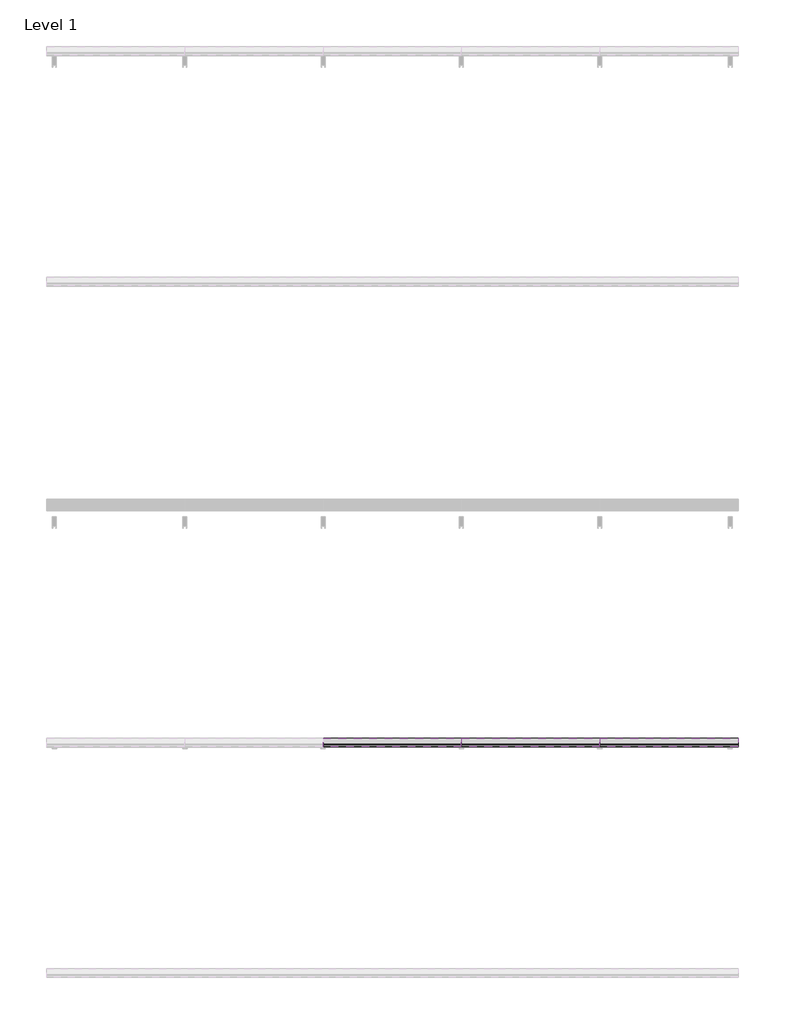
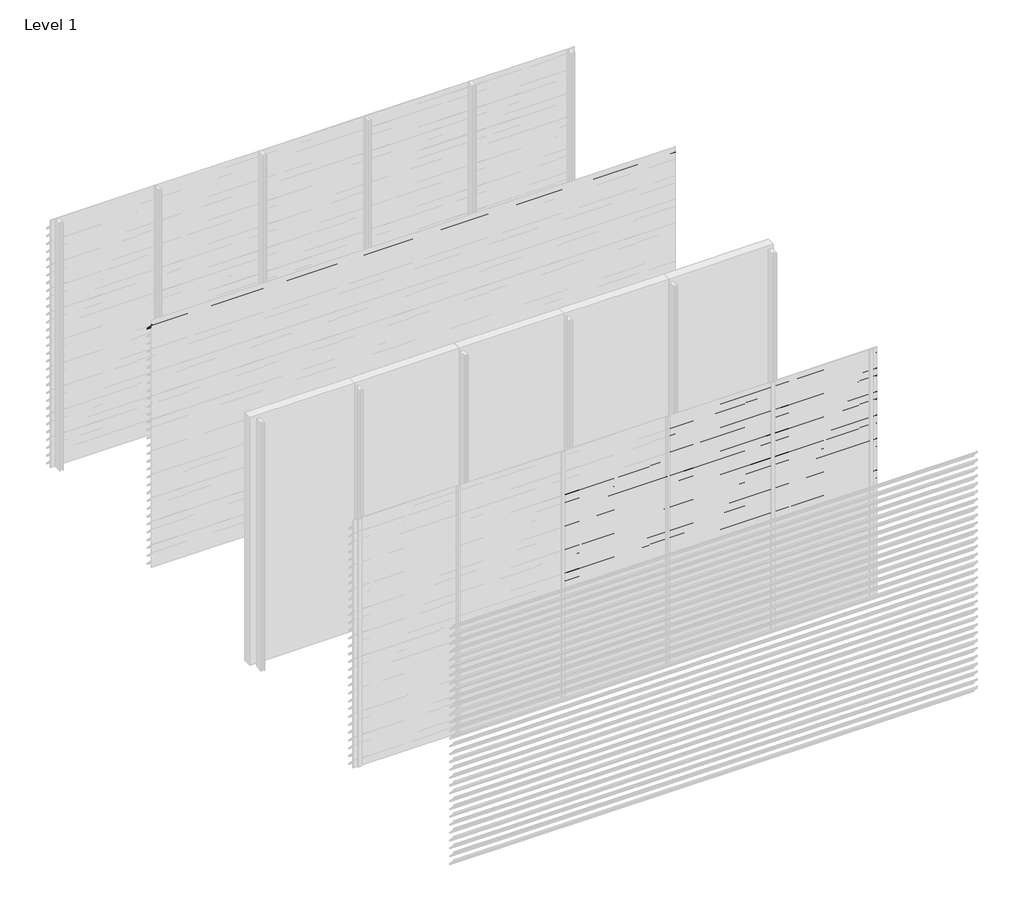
# One storey, part 15 of 24: 89 proxies.
"""IFC4 building model written with IfcOpenShell, lengths in millimetres."""

from ifc_helpers import new_model, si_unit, frame, origin, place, context, project, spatial, polyline, outline, extrude, element, save

model = new_model("IFC4")

# Units and contexts
model_context = context("Model", 3, world=origin())
ifc_project = project(units=[si_unit("LENGTHUNIT", "METRE", prefix="MILLI")], contexts=[model_context])

# Site, building, storey
site = spatial("IfcSite", under=ifc_project)
building = spatial("IfcBuilding", under=site)
storey = spatial("IfcBuildingStorey", under=building, Name="Level 1", Elevation=0.0)

# Proxies
placement = place(None, origin())
element("IfcBuildingElementProxy", 1, Name="Wall Sweeps", at=placement, inside=storey, context=model_context, shape_type="SweptSolid", body=[
    extrude(outline(polyline([(-19920.8, 2842.9), (-19922.3, 2842.9), (-19922.3, 2855.1762333), (-19998.0, 2930.4561238), (-19998.0, 2945.0), (-19996.5, 2945.0), (-19996.5, 2931.0798905), (-19920.8, 2855.8), (-19920.8, 2842.9)])), frame((0.0, 0.0, 0.0), z_axis=(1.0, 0.0, 0.0), x_axis=(0.0, 1.0, 0.0)), (0.0, 0.0, 1.0), 6000.0),
])
element("IfcBuildingElementProxy", 2, Name="Wall Sweeps", at=placement, inside=storey, context=model_context, shape_type="SweptSolid", body=[
    extrude(outline(polyline([(-23920.8, 2367.9), (-23922.3, 2367.9), (-23922.3, 2380.1762333), (-23998.0, 2455.4561238), (-23998.0, 2470.0), (-23996.5, 2470.0), (-23996.5, 2456.0798905), (-23920.8, 2380.8), (-23920.8, 2367.9)])), frame((2400.0, 0.0, 0.0), z_axis=(1.0, 0.0, 0.0), x_axis=(0.0, 1.0, 0.0)), (0.0, 0.0, 1.0), 1200.0),
])
element("IfcBuildingElementProxy", 3, Name="Wall Sweeps", at=placement, inside=storey, context=model_context, shape_type="SweptSolid", body=[
    extrude(outline(polyline([(-23920.8, 2272.9), (-23922.3, 2272.9), (-23922.3, 2285.1762333), (-23998.0, 2360.4561238), (-23998.0, 2375.0), (-23996.5, 2375.0), (-23996.5, 2361.0798905), (-23920.8, 2285.8), (-23920.8, 2272.9)])), frame((2400.0, 0.0, 0.0), z_axis=(1.0, 0.0, 0.0), x_axis=(0.0, 1.0, 0.0)), (0.0, 0.0, 1.0), 1200.0),
])
element("IfcBuildingElementProxy", 4, Name="Wall Sweeps", at=placement, inside=storey, context=model_context, shape_type="SweptSolid", body=[
    extrude(outline(polyline([(-23920.8, 2177.9), (-23922.3, 2177.9), (-23922.3, 2190.1762333), (-23998.0, 2265.4561238), (-23998.0, 2280.0), (-23996.5, 2280.0), (-23996.5, 2266.0798905), (-23920.8, 2190.8), (-23920.8, 2177.9)])), frame((2400.0, 0.0, 0.0), z_axis=(1.0, 0.0, 0.0), x_axis=(0.0, 1.0, 0.0)), (0.0, 0.0, 1.0), 1200.0),
])
element("IfcBuildingElementProxy", 5, Name="Wall Sweeps", at=placement, inside=storey, context=model_context, shape_type="SweptSolid", body=[
    extrude(outline(polyline([(-23920.8, 2082.9), (-23922.3, 2082.9), (-23922.3, 2095.1762333), (-23998.0, 2170.4561238), (-23998.0, 2185.0), (-23996.5, 2185.0), (-23996.5, 2171.0798905), (-23920.8, 2095.8), (-23920.8, 2082.9)])), frame((2400.0, 0.0, 0.0), z_axis=(1.0, 0.0, 0.0), x_axis=(0.0, 1.0, 0.0)), (0.0, 0.0, 1.0), 1200.0),
])
element("IfcBuildingElementProxy", 6, Name="Wall Sweeps", at=placement, inside=storey, context=model_context, shape_type="SweptSolid", body=[
    extrude(outline(polyline([(-23920.8, 1987.9), (-23922.3, 1987.9), (-23922.3, 2000.1762333), (-23998.0, 2075.4561238), (-23998.0, 2090.0), (-23996.5, 2090.0), (-23996.5, 2076.0798905), (-23920.8, 2000.8), (-23920.8, 1987.9)])), frame((2400.0, 0.0, 0.0), z_axis=(1.0, 0.0, 0.0), x_axis=(0.0, 1.0, 0.0)), (0.0, 0.0, 1.0), 1200.0),
])
element("IfcBuildingElementProxy", 7, Name="Wall Sweeps", at=placement, inside=storey, context=model_context, shape_type="SweptSolid", body=[
    extrude(outline(polyline([(-23920.8, 1892.9), (-23922.3, 1892.9), (-23922.3, 1905.1762333), (-23998.0, 1980.4561238), (-23998.0, 1995.0), (-23996.5, 1995.0), (-23996.5, 1981.0798905), (-23920.8, 1905.8), (-23920.8, 1892.9)])), frame((2400.0, 0.0, 0.0), z_axis=(1.0, 0.0, 0.0), x_axis=(0.0, 1.0, 0.0)), (0.0, 0.0, 1.0), 1200.0),
])
element("IfcBuildingElementProxy", 8, Name="Wall Sweeps", at=placement, inside=storey, context=model_context, shape_type="SweptSolid", body=[
    extrude(outline(polyline([(-23920.8, 1797.9), (-23922.3, 1797.9), (-23922.3, 1810.1762333), (-23998.0, 1885.4561238), (-23998.0, 1900.0), (-23996.5, 1900.0), (-23996.5, 1886.0798905), (-23920.8, 1810.8), (-23920.8, 1797.9)])), frame((2400.0, 0.0, 0.0), z_axis=(1.0, 0.0, 0.0), x_axis=(0.0, 1.0, 0.0)), (0.0, 0.0, 1.0), 1200.0),
])
element("IfcBuildingElementProxy", 9, Name="Wall Sweeps", at=placement, inside=storey, context=model_context, shape_type="SweptSolid", body=[
    extrude(outline(polyline([(-23920.8, 1702.9), (-23922.3, 1702.9), (-23922.3, 1715.1762333), (-23998.0, 1790.4561238), (-23998.0, 1805.0), (-23996.5, 1805.0), (-23996.5, 1791.0798905), (-23920.8, 1715.8), (-23920.8, 1702.9)])), frame((2400.0, 0.0, 0.0), z_axis=(1.0, 0.0, 0.0), x_axis=(0.0, 1.0, 0.0)), (0.0, 0.0, 1.0), 1200.0),
])
element("IfcBuildingElementProxy", 10, Name="Wall Sweeps", at=placement, inside=storey, context=model_context, shape_type="SweptSolid", body=[
    extrude(outline(polyline([(-23920.8, 1607.9), (-23922.3, 1607.9), (-23922.3, 1620.1762333), (-23998.0, 1695.4561238), (-23998.0, 1710.0), (-23996.5, 1710.0), (-23996.5, 1696.0798905), (-23920.8, 1620.8), (-23920.8, 1607.9)])), frame((2400.0, 0.0, 0.0), z_axis=(1.0, 0.0, 0.0), x_axis=(0.0, 1.0, 0.0)), (0.0, 0.0, 1.0), 1200.0),
])
element("IfcBuildingElementProxy", 11, Name="Wall Sweeps", at=placement, inside=storey, context=model_context, shape_type="SweptSolid", body=[
    extrude(outline(polyline([(-23920.8, 1512.9), (-23922.3, 1512.9), (-23922.3, 1525.1762333), (-23998.0, 1600.4561238), (-23998.0, 1615.0), (-23996.5, 1615.0), (-23996.5, 1601.0798905), (-23920.8, 1525.8), (-23920.8, 1512.9)])), frame((2400.0, 0.0, 0.0), z_axis=(1.0, 0.0, 0.0), x_axis=(0.0, 1.0, 0.0)), (0.0, 0.0, 1.0), 1200.0),
])
element("IfcBuildingElementProxy", 12, Name="Wall Sweeps", at=placement, inside=storey, context=model_context, shape_type="SweptSolid", body=[
    extrude(outline(polyline([(-23920.8, 1417.9), (-23922.3, 1417.9), (-23922.3, 1430.1762333), (-23998.0, 1505.4561238), (-23998.0, 1520.0), (-23996.5, 1520.0), (-23996.5, 1506.0798905), (-23920.8, 1430.8), (-23920.8, 1417.9)])), frame((2400.0, 0.0, 0.0), z_axis=(1.0, 0.0, 0.0), x_axis=(0.0, 1.0, 0.0)), (0.0, 0.0, 1.0), 1200.0),
])
element("IfcBuildingElementProxy", 13, Name="Wall Sweeps", at=placement, inside=storey, context=model_context, shape_type="SweptSolid", body=[
    extrude(outline(polyline([(-23920.8, 1322.9), (-23922.3, 1322.9), (-23922.3, 1335.1762333), (-23998.0, 1410.4561238), (-23998.0, 1425.0), (-23996.5, 1425.0), (-23996.5, 1411.0798905), (-23920.8, 1335.8), (-23920.8, 1322.9)])), frame((2400.0, 0.0, 0.0), z_axis=(1.0, 0.0, 0.0), x_axis=(0.0, 1.0, 0.0)), (0.0, 0.0, 1.0), 1200.0),
])
element("IfcBuildingElementProxy", 14, Name="Wall Sweeps", at=placement, inside=storey, context=model_context, shape_type="SweptSolid", body=[
    extrude(outline(polyline([(-23920.8, 1227.9), (-23922.3, 1227.9), (-23922.3, 1240.1762333), (-23998.0, 1315.4561238), (-23998.0, 1330.0), (-23996.5, 1330.0), (-23996.5, 1316.0798905), (-23920.8, 1240.8), (-23920.8, 1227.9)])), frame((2400.0, 0.0, 0.0), z_axis=(1.0, 0.0, 0.0), x_axis=(0.0, 1.0, 0.0)), (0.0, 0.0, 1.0), 1200.0),
])
element("IfcBuildingElementProxy", 15, Name="Wall Sweeps", at=placement, inside=storey, context=model_context, shape_type="SweptSolid", body=[
    extrude(outline(polyline([(-23920.8, 1132.9), (-23922.3, 1132.9), (-23922.3, 1145.1762333), (-23998.0, 1220.4561238), (-23998.0, 1235.0), (-23996.5, 1235.0), (-23996.5, 1221.0798905), (-23920.8, 1145.8), (-23920.8, 1132.9)])), frame((2400.0, 0.0, 0.0), z_axis=(1.0, 0.0, 0.0), x_axis=(0.0, 1.0, 0.0)), (0.0, 0.0, 1.0), 1200.0),
])
element("IfcBuildingElementProxy", 16, Name="Wall Sweeps", at=placement, inside=storey, context=model_context, shape_type="SweptSolid", body=[
    extrude(outline(polyline([(-23920.8, 1037.9), (-23922.3, 1037.9), (-23922.3, 1050.1762333), (-23998.0, 1125.4561238), (-23998.0, 1140.0), (-23996.5, 1140.0), (-23996.5, 1126.0798905), (-23920.8, 1050.8), (-23920.8, 1037.9)])), frame((2400.0, 0.0, 0.0), z_axis=(1.0, 0.0, 0.0), x_axis=(0.0, 1.0, 0.0)), (0.0, 0.0, 1.0), 1200.0),
])
element("IfcBuildingElementProxy", 17, Name="Wall Sweeps", at=placement, inside=storey, context=model_context, shape_type="SweptSolid", body=[
    extrude(outline(polyline([(-23920.8, 942.9), (-23922.3, 942.9), (-23922.3, 955.1762333), (-23998.0, 1030.4561238), (-23998.0, 1045.0), (-23996.5, 1045.0), (-23996.5, 1031.0798905), (-23920.8, 955.8), (-23920.8, 942.9)])), frame((2400.0, 0.0, 0.0), z_axis=(1.0, 0.0, 0.0), x_axis=(0.0, 1.0, 0.0)), (0.0, 0.0, 1.0), 1200.0),
])
element("IfcBuildingElementProxy", 18, Name="Wall Sweeps", at=placement, inside=storey, context=model_context, shape_type="SweptSolid", body=[
    extrude(outline(polyline([(-23920.8, 847.9), (-23922.3, 847.9), (-23922.3, 860.1762333), (-23998.0, 935.4561238), (-23998.0, 950.0), (-23996.5, 950.0), (-23996.5, 936.0798905), (-23920.8, 860.8), (-23920.8, 847.9)])), frame((2400.0, 0.0, 0.0), z_axis=(1.0, 0.0, 0.0), x_axis=(0.0, 1.0, 0.0)), (0.0, 0.0, 1.0), 1200.0),
])
element("IfcBuildingElementProxy", 19, Name="Wall Sweeps", at=placement, inside=storey, context=model_context, shape_type="SweptSolid", body=[
    extrude(outline(polyline([(-23920.8, 752.9), (-23922.3, 752.9), (-23922.3, 765.1762333), (-23998.0, 840.4561238), (-23998.0, 855.0), (-23996.5, 855.0), (-23996.5, 841.0798905), (-23920.8, 765.8), (-23920.8, 752.9)])), frame((2400.0, 0.0, 0.0), z_axis=(1.0, 0.0, 0.0), x_axis=(0.0, 1.0, 0.0)), (0.0, 0.0, 1.0), 1200.0),
])
element("IfcBuildingElementProxy", 20, Name="Wall Sweeps", at=placement, inside=storey, context=model_context, shape_type="SweptSolid", body=[
    extrude(outline(polyline([(-23920.8, 657.9), (-23922.3, 657.9), (-23922.3, 670.1762333), (-23998.0, 745.4561238), (-23998.0, 760.0), (-23996.5, 760.0), (-23996.5, 746.0798905), (-23920.8, 670.8), (-23920.8, 657.9)])), frame((2400.0, 0.0, 0.0), z_axis=(1.0, 0.0, 0.0), x_axis=(0.0, 1.0, 0.0)), (0.0, 0.0, 1.0), 1200.0),
])
element("IfcBuildingElementProxy", 21, Name="Wall Sweeps", at=placement, inside=storey, context=model_context, shape_type="SweptSolid", body=[
    extrude(outline(polyline([(-23920.8, 562.9), (-23922.3, 562.9), (-23922.3, 575.1762333), (-23998.0, 650.4561238), (-23998.0, 665.0), (-23996.5, 665.0), (-23996.5, 651.0798905), (-23920.8, 575.8), (-23920.8, 562.9)])), frame((2400.0, 0.0, 0.0), z_axis=(1.0, 0.0, 0.0), x_axis=(0.0, 1.0, 0.0)), (0.0, 0.0, 1.0), 1200.0),
])
element("IfcBuildingElementProxy", 22, Name="Wall Sweeps", at=placement, inside=storey, context=model_context, shape_type="SweptSolid", body=[
    extrude(outline(polyline([(-23920.8, 467.9), (-23922.3, 467.9), (-23922.3, 480.1762333), (-23998.0, 555.4561238), (-23998.0, 570.0), (-23996.5, 570.0), (-23996.5, 556.0798905), (-23920.8, 480.8), (-23920.8, 467.9)])), frame((2400.0, 0.0, 0.0), z_axis=(1.0, 0.0, 0.0), x_axis=(0.0, 1.0, 0.0)), (0.0, 0.0, 1.0), 1200.0),
])
element("IfcBuildingElementProxy", 23, Name="Wall Sweeps", at=placement, inside=storey, context=model_context, shape_type="SweptSolid", body=[
    extrude(outline(polyline([(-23920.8, 372.9), (-23922.3, 372.9), (-23922.3, 385.1762333), (-23998.0, 460.4561238), (-23998.0, 475.0), (-23996.5, 475.0), (-23996.5, 461.0798905), (-23920.8, 385.8), (-23920.8, 372.9)])), frame((2400.0, 0.0, 0.0), z_axis=(1.0, 0.0, 0.0), x_axis=(0.0, 1.0, 0.0)), (0.0, 0.0, 1.0), 1200.0),
])
element("IfcBuildingElementProxy", 24, Name="Wall Sweeps", at=placement, inside=storey, context=model_context, shape_type="SweptSolid", body=[
    extrude(outline(polyline([(-23920.8, 277.9), (-23922.3, 277.9), (-23922.3, 290.1762333), (-23998.0, 365.4561238), (-23998.0, 380.0), (-23996.5, 380.0), (-23996.5, 366.0798905), (-23920.8, 290.8), (-23920.8, 277.9)])), frame((2400.0, 0.0, 0.0), z_axis=(1.0, 0.0, 0.0), x_axis=(0.0, 1.0, 0.0)), (0.0, 0.0, 1.0), 1200.0),
])
element("IfcBuildingElementProxy", 25, Name="Wall Sweeps", at=placement, inside=storey, context=model_context, shape_type="SweptSolid", body=[
    extrude(outline(polyline([(-23920.8, 182.9), (-23922.3, 182.9), (-23922.3, 195.1762333), (-23998.0, 270.4561238), (-23998.0, 285.0), (-23996.5, 285.0), (-23996.5, 271.0798905), (-23920.8, 195.8), (-23920.8, 182.9)])), frame((2400.0, 0.0, 0.0), z_axis=(1.0, 0.0, 0.0), x_axis=(0.0, 1.0, 0.0)), (0.0, 0.0, 1.0), 1200.0),
])
element("IfcBuildingElementProxy", 26, Name="Wall Sweeps", at=placement, inside=storey, context=model_context, shape_type="SweptSolid", body=[
    extrude(outline(polyline([(-23920.8, 87.9), (-23922.3, 87.9), (-23922.3, 100.1762333), (-23998.0, 175.4561238), (-23998.0, 190.0), (-23996.5, 190.0), (-23996.5, 176.0798905), (-23920.8, 100.8), (-23920.8, 87.9)])), frame((2400.0, 0.0, 0.0), z_axis=(1.0, 0.0, 0.0), x_axis=(0.0, 1.0, 0.0)), (0.0, 0.0, 1.0), 1200.0),
])
element("IfcBuildingElementProxy", 27, Name="Wall Sweeps", at=placement, inside=storey, context=model_context, shape_type="SweptSolid", body=[
    extrude(outline(polyline([(-23920.8, -7.1), (-23922.3, -7.1), (-23922.3, 5.1762333), (-23998.0, 80.4561238), (-23998.0, 95.0), (-23996.5, 95.0), (-23996.5, 81.0798905), (-23920.8, 5.8), (-23920.8, -7.1)])), frame((2400.0, 0.0, 0.0), z_axis=(1.0, 0.0, 0.0), x_axis=(0.0, 1.0, 0.0)), (0.0, 0.0, 1.0), 1200.0),
])
element("IfcBuildingElementProxy", 28, Name="Wall Sweeps", at=placement, inside=storey, context=model_context, shape_type="SweptSolid", body=[
    extrude(outline(polyline([(-23920.8, 2842.9), (-23922.3, 2842.9), (-23922.3, 2855.1762333), (-23998.0, 2930.4561238), (-23998.0, 2945.0), (-23996.5, 2945.0), (-23996.5, 2931.0798905), (-23920.8, 2855.8), (-23920.8, 2842.9)])), frame((3600.0, 0.0, 0.0), z_axis=(1.0, 0.0, 0.0), x_axis=(0.0, 1.0, 0.0)), (0.0, 0.0, 1.0), 1200.0),
])
element("IfcBuildingElementProxy", 29, Name="Wall Sweeps", at=placement, inside=storey, context=model_context, shape_type="SweptSolid", body=[
    extrude(outline(polyline([(-23920.8, 2747.9), (-23922.3, 2747.9), (-23922.3, 2760.1762333), (-23998.0, 2835.4561238), (-23998.0, 2850.0), (-23996.5, 2850.0), (-23996.5, 2836.0798905), (-23920.8, 2760.8), (-23920.8, 2747.9)])), frame((3600.0, 0.0, 0.0), z_axis=(1.0, 0.0, 0.0), x_axis=(0.0, 1.0, 0.0)), (0.0, 0.0, 1.0), 1200.0),
])
element("IfcBuildingElementProxy", 30, Name="Wall Sweeps", at=placement, inside=storey, context=model_context, shape_type="SweptSolid", body=[
    extrude(outline(polyline([(-23920.8, 2652.9), (-23922.3, 2652.9), (-23922.3, 2665.1762333), (-23998.0, 2740.4561238), (-23998.0, 2755.0), (-23996.5, 2755.0), (-23996.5, 2741.0798905), (-23920.8, 2665.8), (-23920.8, 2652.9)])), frame((3600.0, 0.0, 0.0), z_axis=(1.0, 0.0, 0.0), x_axis=(0.0, 1.0, 0.0)), (0.0, 0.0, 1.0), 1200.0),
])
element("IfcBuildingElementProxy", 31, Name="Wall Sweeps", at=placement, inside=storey, context=model_context, shape_type="SweptSolid", body=[
    extrude(outline(polyline([(-23920.8, 2557.9), (-23922.3, 2557.9), (-23922.3, 2570.1762333), (-23998.0, 2645.4561238), (-23998.0, 2660.0), (-23996.5, 2660.0), (-23996.5, 2646.0798905), (-23920.8, 2570.8), (-23920.8, 2557.9)])), frame((3600.0, 0.0, 0.0), z_axis=(1.0, 0.0, 0.0), x_axis=(0.0, 1.0, 0.0)), (0.0, 0.0, 1.0), 1200.0),
])
element("IfcBuildingElementProxy", 32, Name="Wall Sweeps", at=placement, inside=storey, context=model_context, shape_type="SweptSolid", body=[
    extrude(outline(polyline([(-23920.8, 2462.9), (-23922.3, 2462.9), (-23922.3, 2475.1762333), (-23998.0, 2550.4561238), (-23998.0, 2565.0), (-23996.5, 2565.0), (-23996.5, 2551.0798905), (-23920.8, 2475.8), (-23920.8, 2462.9)])), frame((3600.0, 0.0, 0.0), z_axis=(1.0, 0.0, 0.0), x_axis=(0.0, 1.0, 0.0)), (0.0, 0.0, 1.0), 1200.0),
])
element("IfcBuildingElementProxy", 33, Name="Wall Sweeps", at=placement, inside=storey, context=model_context, shape_type="SweptSolid", body=[
    extrude(outline(polyline([(-23920.8, 2367.9), (-23922.3, 2367.9), (-23922.3, 2380.1762333), (-23998.0, 2455.4561238), (-23998.0, 2470.0), (-23996.5, 2470.0), (-23996.5, 2456.0798905), (-23920.8, 2380.8), (-23920.8, 2367.9)])), frame((3600.0, 0.0, 0.0), z_axis=(1.0, 0.0, 0.0), x_axis=(0.0, 1.0, 0.0)), (0.0, 0.0, 1.0), 1200.0),
])
element("IfcBuildingElementProxy", 34, Name="Wall Sweeps", at=placement, inside=storey, context=model_context, shape_type="SweptSolid", body=[
    extrude(outline(polyline([(-23920.8, 2272.9), (-23922.3, 2272.9), (-23922.3, 2285.1762333), (-23998.0, 2360.4561238), (-23998.0, 2375.0), (-23996.5, 2375.0), (-23996.5, 2361.0798905), (-23920.8, 2285.8), (-23920.8, 2272.9)])), frame((3600.0, 0.0, 0.0), z_axis=(1.0, 0.0, 0.0), x_axis=(0.0, 1.0, 0.0)), (0.0, 0.0, 1.0), 1200.0),
])
element("IfcBuildingElementProxy", 35, Name="Wall Sweeps", at=placement, inside=storey, context=model_context, shape_type="SweptSolid", body=[
    extrude(outline(polyline([(-23920.8, 2177.9), (-23922.3, 2177.9), (-23922.3, 2190.1762333), (-23998.0, 2265.4561238), (-23998.0, 2280.0), (-23996.5, 2280.0), (-23996.5, 2266.0798905), (-23920.8, 2190.8), (-23920.8, 2177.9)])), frame((3600.0, 0.0, 0.0), z_axis=(1.0, 0.0, 0.0), x_axis=(0.0, 1.0, 0.0)), (0.0, 0.0, 1.0), 1200.0),
])
element("IfcBuildingElementProxy", 36, Name="Wall Sweeps", at=placement, inside=storey, context=model_context, shape_type="SweptSolid", body=[
    extrude(outline(polyline([(-23920.8, 2082.9), (-23922.3, 2082.9), (-23922.3, 2095.1762333), (-23998.0, 2170.4561238), (-23998.0, 2185.0), (-23996.5, 2185.0), (-23996.5, 2171.0798905), (-23920.8, 2095.8), (-23920.8, 2082.9)])), frame((3600.0, 0.0, 0.0), z_axis=(1.0, 0.0, 0.0), x_axis=(0.0, 1.0, 0.0)), (0.0, 0.0, 1.0), 1200.0),
])
element("IfcBuildingElementProxy", 37, Name="Wall Sweeps", at=placement, inside=storey, context=model_context, shape_type="SweptSolid", body=[
    extrude(outline(polyline([(-23920.8, 1987.9), (-23922.3, 1987.9), (-23922.3, 2000.1762333), (-23998.0, 2075.4561238), (-23998.0, 2090.0), (-23996.5, 2090.0), (-23996.5, 2076.0798905), (-23920.8, 2000.8), (-23920.8, 1987.9)])), frame((3600.0, 0.0, 0.0), z_axis=(1.0, 0.0, 0.0), x_axis=(0.0, 1.0, 0.0)), (0.0, 0.0, 1.0), 1200.0),
])
element("IfcBuildingElementProxy", 38, Name="Wall Sweeps", at=placement, inside=storey, context=model_context, shape_type="SweptSolid", body=[
    extrude(outline(polyline([(-23920.8, 1892.9), (-23922.3, 1892.9), (-23922.3, 1905.1762333), (-23998.0, 1980.4561238), (-23998.0, 1995.0), (-23996.5, 1995.0), (-23996.5, 1981.0798905), (-23920.8, 1905.8), (-23920.8, 1892.9)])), frame((3600.0, 0.0, 0.0), z_axis=(1.0, 0.0, 0.0), x_axis=(0.0, 1.0, 0.0)), (0.0, 0.0, 1.0), 1200.0),
])
element("IfcBuildingElementProxy", 39, Name="Wall Sweeps", at=placement, inside=storey, context=model_context, shape_type="SweptSolid", body=[
    extrude(outline(polyline([(-23920.8, 1797.9), (-23922.3, 1797.9), (-23922.3, 1810.1762333), (-23998.0, 1885.4561238), (-23998.0, 1900.0), (-23996.5, 1900.0), (-23996.5, 1886.0798905), (-23920.8, 1810.8), (-23920.8, 1797.9)])), frame((3600.0, 0.0, 0.0), z_axis=(1.0, 0.0, 0.0), x_axis=(0.0, 1.0, 0.0)), (0.0, 0.0, 1.0), 1200.0),
])
element("IfcBuildingElementProxy", 40, Name="Wall Sweeps", at=placement, inside=storey, context=model_context, shape_type="SweptSolid", body=[
    extrude(outline(polyline([(-23920.8, 1702.9), (-23922.3, 1702.9), (-23922.3, 1715.1762333), (-23998.0, 1790.4561238), (-23998.0, 1805.0), (-23996.5, 1805.0), (-23996.5, 1791.0798905), (-23920.8, 1715.8), (-23920.8, 1702.9)])), frame((3600.0, 0.0, 0.0), z_axis=(1.0, 0.0, 0.0), x_axis=(0.0, 1.0, 0.0)), (0.0, 0.0, 1.0), 1200.0),
])
element("IfcBuildingElementProxy", 41, Name="Wall Sweeps", at=placement, inside=storey, context=model_context, shape_type="SweptSolid", body=[
    extrude(outline(polyline([(-23920.8, 1607.9), (-23922.3, 1607.9), (-23922.3, 1620.1762333), (-23998.0, 1695.4561238), (-23998.0, 1710.0), (-23996.5, 1710.0), (-23996.5, 1696.0798905), (-23920.8, 1620.8), (-23920.8, 1607.9)])), frame((3600.0, 0.0, 0.0), z_axis=(1.0, 0.0, 0.0), x_axis=(0.0, 1.0, 0.0)), (0.0, 0.0, 1.0), 1200.0),
])
element("IfcBuildingElementProxy", 42, Name="Wall Sweeps", at=placement, inside=storey, context=model_context, shape_type="SweptSolid", body=[
    extrude(outline(polyline([(-23920.8, 1512.9), (-23922.3, 1512.9), (-23922.3, 1525.1762333), (-23998.0, 1600.4561238), (-23998.0, 1615.0), (-23996.5, 1615.0), (-23996.5, 1601.0798905), (-23920.8, 1525.8), (-23920.8, 1512.9)])), frame((3600.0, 0.0, 0.0), z_axis=(1.0, 0.0, 0.0), x_axis=(0.0, 1.0, 0.0)), (0.0, 0.0, 1.0), 1200.0),
])
element("IfcBuildingElementProxy", 43, Name="Wall Sweeps", at=placement, inside=storey, context=model_context, shape_type="SweptSolid", body=[
    extrude(outline(polyline([(-23920.8, 1417.9), (-23922.3, 1417.9), (-23922.3, 1430.1762333), (-23998.0, 1505.4561238), (-23998.0, 1520.0), (-23996.5, 1520.0), (-23996.5, 1506.0798905), (-23920.8, 1430.8), (-23920.8, 1417.9)])), frame((3600.0, 0.0, 0.0), z_axis=(1.0, 0.0, 0.0), x_axis=(0.0, 1.0, 0.0)), (0.0, 0.0, 1.0), 1200.0),
])
element("IfcBuildingElementProxy", 44, Name="Wall Sweeps", at=placement, inside=storey, context=model_context, shape_type="SweptSolid", body=[
    extrude(outline(polyline([(-23920.8, 1322.9), (-23922.3, 1322.9), (-23922.3, 1335.1762333), (-23998.0, 1410.4561238), (-23998.0, 1425.0), (-23996.5, 1425.0), (-23996.5, 1411.0798905), (-23920.8, 1335.8), (-23920.8, 1322.9)])), frame((3600.0, 0.0, 0.0), z_axis=(1.0, 0.0, 0.0), x_axis=(0.0, 1.0, 0.0)), (0.0, 0.0, 1.0), 1200.0),
])
element("IfcBuildingElementProxy", 45, Name="Wall Sweeps", at=placement, inside=storey, context=model_context, shape_type="SweptSolid", body=[
    extrude(outline(polyline([(-23920.8, 1227.9), (-23922.3, 1227.9), (-23922.3, 1240.1762333), (-23998.0, 1315.4561238), (-23998.0, 1330.0), (-23996.5, 1330.0), (-23996.5, 1316.0798905), (-23920.8, 1240.8), (-23920.8, 1227.9)])), frame((3600.0, 0.0, 0.0), z_axis=(1.0, 0.0, 0.0), x_axis=(0.0, 1.0, 0.0)), (0.0, 0.0, 1.0), 1200.0),
])
element("IfcBuildingElementProxy", 46, Name="Wall Sweeps", at=placement, inside=storey, context=model_context, shape_type="SweptSolid", body=[
    extrude(outline(polyline([(-23920.8, 1132.9), (-23922.3, 1132.9), (-23922.3, 1145.1762333), (-23998.0, 1220.4561238), (-23998.0, 1235.0), (-23996.5, 1235.0), (-23996.5, 1221.0798905), (-23920.8, 1145.8), (-23920.8, 1132.9)])), frame((3600.0, 0.0, 0.0), z_axis=(1.0, 0.0, 0.0), x_axis=(0.0, 1.0, 0.0)), (0.0, 0.0, 1.0), 1200.0),
])
element("IfcBuildingElementProxy", 47, Name="Wall Sweeps", at=placement, inside=storey, context=model_context, shape_type="SweptSolid", body=[
    extrude(outline(polyline([(-23920.8, 1037.9), (-23922.3, 1037.9), (-23922.3, 1050.1762333), (-23998.0, 1125.4561238), (-23998.0, 1140.0), (-23996.5, 1140.0), (-23996.5, 1126.0798905), (-23920.8, 1050.8), (-23920.8, 1037.9)])), frame((3600.0, 0.0, 0.0), z_axis=(1.0, 0.0, 0.0), x_axis=(0.0, 1.0, 0.0)), (0.0, 0.0, 1.0), 1200.0),
])
element("IfcBuildingElementProxy", 48, Name="Wall Sweeps", at=placement, inside=storey, context=model_context, shape_type="SweptSolid", body=[
    extrude(outline(polyline([(-23920.8, 942.9), (-23922.3, 942.9), (-23922.3, 955.1762333), (-23998.0, 1030.4561238), (-23998.0, 1045.0), (-23996.5, 1045.0), (-23996.5, 1031.0798905), (-23920.8, 955.8), (-23920.8, 942.9)])), frame((3600.0, 0.0, 0.0), z_axis=(1.0, 0.0, 0.0), x_axis=(0.0, 1.0, 0.0)), (0.0, 0.0, 1.0), 1200.0),
])
element("IfcBuildingElementProxy", 49, Name="Wall Sweeps", at=placement, inside=storey, context=model_context, shape_type="SweptSolid", body=[
    extrude(outline(polyline([(-23920.8, 847.9), (-23922.3, 847.9), (-23922.3, 860.1762333), (-23998.0, 935.4561238), (-23998.0, 950.0), (-23996.5, 950.0), (-23996.5, 936.0798905), (-23920.8, 860.8), (-23920.8, 847.9)])), frame((3600.0, 0.0, 0.0), z_axis=(1.0, 0.0, 0.0), x_axis=(0.0, 1.0, 0.0)), (0.0, 0.0, 1.0), 1200.0),
])
element("IfcBuildingElementProxy", 50, Name="Wall Sweeps", at=placement, inside=storey, context=model_context, shape_type="SweptSolid", body=[
    extrude(outline(polyline([(-23920.8, 752.9), (-23922.3, 752.9), (-23922.3, 765.1762333), (-23998.0, 840.4561238), (-23998.0, 855.0), (-23996.5, 855.0), (-23996.5, 841.0798905), (-23920.8, 765.8), (-23920.8, 752.9)])), frame((3600.0, 0.0, 0.0), z_axis=(1.0, 0.0, 0.0), x_axis=(0.0, 1.0, 0.0)), (0.0, 0.0, 1.0), 1200.0),
])
element("IfcBuildingElementProxy", 51, Name="Wall Sweeps", at=placement, inside=storey, context=model_context, shape_type="SweptSolid", body=[
    extrude(outline(polyline([(-23920.8, 657.9), (-23922.3, 657.9), (-23922.3, 670.1762333), (-23998.0, 745.4561238), (-23998.0, 760.0), (-23996.5, 760.0), (-23996.5, 746.0798905), (-23920.8, 670.8), (-23920.8, 657.9)])), frame((3600.0, 0.0, 0.0), z_axis=(1.0, 0.0, 0.0), x_axis=(0.0, 1.0, 0.0)), (0.0, 0.0, 1.0), 1200.0),
])
element("IfcBuildingElementProxy", 52, Name="Wall Sweeps", at=placement, inside=storey, context=model_context, shape_type="SweptSolid", body=[
    extrude(outline(polyline([(-23920.8, 562.9), (-23922.3, 562.9), (-23922.3, 575.1762333), (-23998.0, 650.4561238), (-23998.0, 665.0), (-23996.5, 665.0), (-23996.5, 651.0798905), (-23920.8, 575.8), (-23920.8, 562.9)])), frame((3600.0, 0.0, 0.0), z_axis=(1.0, 0.0, 0.0), x_axis=(0.0, 1.0, 0.0)), (0.0, 0.0, 1.0), 1200.0),
])
element("IfcBuildingElementProxy", 53, Name="Wall Sweeps", at=placement, inside=storey, context=model_context, shape_type="SweptSolid", body=[
    extrude(outline(polyline([(-23920.8, 467.9), (-23922.3, 467.9), (-23922.3, 480.1762333), (-23998.0, 555.4561238), (-23998.0, 570.0), (-23996.5, 570.0), (-23996.5, 556.0798905), (-23920.8, 480.8), (-23920.8, 467.9)])), frame((3600.0, 0.0, 0.0), z_axis=(1.0, 0.0, 0.0), x_axis=(0.0, 1.0, 0.0)), (0.0, 0.0, 1.0), 1200.0),
])
element("IfcBuildingElementProxy", 54, Name="Wall Sweeps", at=placement, inside=storey, context=model_context, shape_type="SweptSolid", body=[
    extrude(outline(polyline([(-23920.8, 372.9), (-23922.3, 372.9), (-23922.3, 385.1762333), (-23998.0, 460.4561238), (-23998.0, 475.0), (-23996.5, 475.0), (-23996.5, 461.0798905), (-23920.8, 385.8), (-23920.8, 372.9)])), frame((3600.0, 0.0, 0.0), z_axis=(1.0, 0.0, 0.0), x_axis=(0.0, 1.0, 0.0)), (0.0, 0.0, 1.0), 1200.0),
])
element("IfcBuildingElementProxy", 55, Name="Wall Sweeps", at=placement, inside=storey, context=model_context, shape_type="SweptSolid", body=[
    extrude(outline(polyline([(-23920.8, 277.9), (-23922.3, 277.9), (-23922.3, 290.1762333), (-23998.0, 365.4561238), (-23998.0, 380.0), (-23996.5, 380.0), (-23996.5, 366.0798905), (-23920.8, 290.8), (-23920.8, 277.9)])), frame((3600.0, 0.0, 0.0), z_axis=(1.0, 0.0, 0.0), x_axis=(0.0, 1.0, 0.0)), (0.0, 0.0, 1.0), 1200.0),
])
element("IfcBuildingElementProxy", 56, Name="Wall Sweeps", at=placement, inside=storey, context=model_context, shape_type="SweptSolid", body=[
    extrude(outline(polyline([(-23920.8, 182.9), (-23922.3, 182.9), (-23922.3, 195.1762333), (-23998.0, 270.4561238), (-23998.0, 285.0), (-23996.5, 285.0), (-23996.5, 271.0798905), (-23920.8, 195.8), (-23920.8, 182.9)])), frame((3600.0, 0.0, 0.0), z_axis=(1.0, 0.0, 0.0), x_axis=(0.0, 1.0, 0.0)), (0.0, 0.0, 1.0), 1200.0),
])
element("IfcBuildingElementProxy", 57, Name="Wall Sweeps", at=placement, inside=storey, context=model_context, shape_type="SweptSolid", body=[
    extrude(outline(polyline([(-23920.8, 87.9), (-23922.3, 87.9), (-23922.3, 100.1762333), (-23998.0, 175.4561238), (-23998.0, 190.0), (-23996.5, 190.0), (-23996.5, 176.0798905), (-23920.8, 100.8), (-23920.8, 87.9)])), frame((3600.0, 0.0, 0.0), z_axis=(1.0, 0.0, 0.0), x_axis=(0.0, 1.0, 0.0)), (0.0, 0.0, 1.0), 1200.0),
])
element("IfcBuildingElementProxy", 58, Name="Wall Sweeps", at=placement, inside=storey, context=model_context, shape_type="SweptSolid", body=[
    extrude(outline(polyline([(-23920.8, -7.1), (-23922.3, -7.1), (-23922.3, 5.1762333), (-23998.0, 80.4561238), (-23998.0, 95.0), (-23996.5, 95.0), (-23996.5, 81.0798905), (-23920.8, 5.8), (-23920.8, -7.1)])), frame((3600.0, 0.0, 0.0), z_axis=(1.0, 0.0, 0.0), x_axis=(0.0, 1.0, 0.0)), (0.0, 0.0, 1.0), 1200.0),
])
element("IfcBuildingElementProxy", 59, Name="Wall Sweeps", at=placement, inside=storey, context=model_context, shape_type="SweptSolid", body=[
    extrude(outline(polyline([(-23920.8, 2842.9), (-23922.3, 2842.9), (-23922.3, 2855.1762333), (-23998.0, 2930.4561238), (-23998.0, 2945.0), (-23996.5, 2945.0), (-23996.5, 2931.0798905), (-23920.8, 2855.8), (-23920.8, 2842.9)])), frame((4800.0, 0.0, 0.0), z_axis=(1.0, 0.0, 0.0), x_axis=(0.0, 1.0, 0.0)), (0.0, 0.0, 1.0), 1200.0),
])
element("IfcBuildingElementProxy", 60, Name="Wall Sweeps", at=placement, inside=storey, context=model_context, shape_type="SweptSolid", body=[
    extrude(outline(polyline([(-23920.8, 2747.9), (-23922.3, 2747.9), (-23922.3, 2760.1762333), (-23998.0, 2835.4561238), (-23998.0, 2850.0), (-23996.5, 2850.0), (-23996.5, 2836.0798905), (-23920.8, 2760.8), (-23920.8, 2747.9)])), frame((4800.0, 0.0, 0.0), z_axis=(1.0, 0.0, 0.0), x_axis=(0.0, 1.0, 0.0)), (0.0, 0.0, 1.0), 1200.0),
])
element("IfcBuildingElementProxy", 61, Name="Wall Sweeps", at=placement, inside=storey, context=model_context, shape_type="SweptSolid", body=[
    extrude(outline(polyline([(-23920.8, 2652.9), (-23922.3, 2652.9), (-23922.3, 2665.1762333), (-23998.0, 2740.4561238), (-23998.0, 2755.0), (-23996.5, 2755.0), (-23996.5, 2741.0798905), (-23920.8, 2665.8), (-23920.8, 2652.9)])), frame((4800.0, 0.0, 0.0), z_axis=(1.0, 0.0, 0.0), x_axis=(0.0, 1.0, 0.0)), (0.0, 0.0, 1.0), 1200.0),
])
element("IfcBuildingElementProxy", 62, Name="Wall Sweeps", at=placement, inside=storey, context=model_context, shape_type="SweptSolid", body=[
    extrude(outline(polyline([(-23920.8, 2557.9), (-23922.3, 2557.9), (-23922.3, 2570.1762333), (-23998.0, 2645.4561238), (-23998.0, 2660.0), (-23996.5, 2660.0), (-23996.5, 2646.0798905), (-23920.8, 2570.8), (-23920.8, 2557.9)])), frame((4800.0, 0.0, 0.0), z_axis=(1.0, 0.0, 0.0), x_axis=(0.0, 1.0, 0.0)), (0.0, 0.0, 1.0), 1200.0),
])
element("IfcBuildingElementProxy", 63, Name="Wall Sweeps", at=placement, inside=storey, context=model_context, shape_type="SweptSolid", body=[
    extrude(outline(polyline([(-23920.8, 2462.9), (-23922.3, 2462.9), (-23922.3, 2475.1762333), (-23998.0, 2550.4561238), (-23998.0, 2565.0), (-23996.5, 2565.0), (-23996.5, 2551.0798905), (-23920.8, 2475.8), (-23920.8, 2462.9)])), frame((4800.0, 0.0, 0.0), z_axis=(1.0, 0.0, 0.0), x_axis=(0.0, 1.0, 0.0)), (0.0, 0.0, 1.0), 1200.0),
])
element("IfcBuildingElementProxy", 64, Name="Wall Sweeps", at=placement, inside=storey, context=model_context, shape_type="SweptSolid", body=[
    extrude(outline(polyline([(-23920.8, 2367.9), (-23922.3, 2367.9), (-23922.3, 2380.1762333), (-23998.0, 2455.4561238), (-23998.0, 2470.0), (-23996.5, 2470.0), (-23996.5, 2456.0798905), (-23920.8, 2380.8), (-23920.8, 2367.9)])), frame((4800.0, 0.0, 0.0), z_axis=(1.0, 0.0, 0.0), x_axis=(0.0, 1.0, 0.0)), (0.0, 0.0, 1.0), 1200.0),
])
element("IfcBuildingElementProxy", 65, Name="Wall Sweeps", at=placement, inside=storey, context=model_context, shape_type="SweptSolid", body=[
    extrude(outline(polyline([(-23920.8, 2272.9), (-23922.3, 2272.9), (-23922.3, 2285.1762333), (-23998.0, 2360.4561238), (-23998.0, 2375.0), (-23996.5, 2375.0), (-23996.5, 2361.0798905), (-23920.8, 2285.8), (-23920.8, 2272.9)])), frame((4800.0, 0.0, 0.0), z_axis=(1.0, 0.0, 0.0), x_axis=(0.0, 1.0, 0.0)), (0.0, 0.0, 1.0), 1200.0),
])
element("IfcBuildingElementProxy", 66, Name="Wall Sweeps", at=placement, inside=storey, context=model_context, shape_type="SweptSolid", body=[
    extrude(outline(polyline([(-23920.8, 2177.9), (-23922.3, 2177.9), (-23922.3, 2190.1762333), (-23998.0, 2265.4561238), (-23998.0, 2280.0), (-23996.5, 2280.0), (-23996.5, 2266.0798905), (-23920.8, 2190.8), (-23920.8, 2177.9)])), frame((4800.0, 0.0, 0.0), z_axis=(1.0, 0.0, 0.0), x_axis=(0.0, 1.0, 0.0)), (0.0, 0.0, 1.0), 1200.0),
])
element("IfcBuildingElementProxy", 67, Name="Wall Sweeps", at=placement, inside=storey, context=model_context, shape_type="SweptSolid", body=[
    extrude(outline(polyline([(-23920.8, 2082.9), (-23922.3, 2082.9), (-23922.3, 2095.1762333), (-23998.0, 2170.4561238), (-23998.0, 2185.0), (-23996.5, 2185.0), (-23996.5, 2171.0798905), (-23920.8, 2095.8), (-23920.8, 2082.9)])), frame((4800.0, 0.0, 0.0), z_axis=(1.0, 0.0, 0.0), x_axis=(0.0, 1.0, 0.0)), (0.0, 0.0, 1.0), 1200.0),
])
element("IfcBuildingElementProxy", 68, Name="Wall Sweeps", at=placement, inside=storey, context=model_context, shape_type="SweptSolid", body=[
    extrude(outline(polyline([(-23920.8, 1987.9), (-23922.3, 1987.9), (-23922.3, 2000.1762333), (-23998.0, 2075.4561238), (-23998.0, 2090.0), (-23996.5, 2090.0), (-23996.5, 2076.0798905), (-23920.8, 2000.8), (-23920.8, 1987.9)])), frame((4800.0, 0.0, 0.0), z_axis=(1.0, 0.0, 0.0), x_axis=(0.0, 1.0, 0.0)), (0.0, 0.0, 1.0), 1200.0),
])
element("IfcBuildingElementProxy", 69, Name="Wall Sweeps", at=placement, inside=storey, context=model_context, shape_type="SweptSolid", body=[
    extrude(outline(polyline([(-23920.8, 1892.9), (-23922.3, 1892.9), (-23922.3, 1905.1762333), (-23998.0, 1980.4561238), (-23998.0, 1995.0), (-23996.5, 1995.0), (-23996.5, 1981.0798905), (-23920.8, 1905.8), (-23920.8, 1892.9)])), frame((4800.0, 0.0, 0.0), z_axis=(1.0, 0.0, 0.0), x_axis=(0.0, 1.0, 0.0)), (0.0, 0.0, 1.0), 1200.0),
])
element("IfcBuildingElementProxy", 70, Name="Wall Sweeps", at=placement, inside=storey, context=model_context, shape_type="SweptSolid", body=[
    extrude(outline(polyline([(-23920.8, 1797.9), (-23922.3, 1797.9), (-23922.3, 1810.1762333), (-23998.0, 1885.4561238), (-23998.0, 1900.0), (-23996.5, 1900.0), (-23996.5, 1886.0798905), (-23920.8, 1810.8), (-23920.8, 1797.9)])), frame((4800.0, 0.0, 0.0), z_axis=(1.0, 0.0, 0.0), x_axis=(0.0, 1.0, 0.0)), (0.0, 0.0, 1.0), 1200.0),
])
element("IfcBuildingElementProxy", 71, Name="Wall Sweeps", at=placement, inside=storey, context=model_context, shape_type="SweptSolid", body=[
    extrude(outline(polyline([(-23920.8, 1702.9), (-23922.3, 1702.9), (-23922.3, 1715.1762333), (-23998.0, 1790.4561238), (-23998.0, 1805.0), (-23996.5, 1805.0), (-23996.5, 1791.0798905), (-23920.8, 1715.8), (-23920.8, 1702.9)])), frame((4800.0, 0.0, 0.0), z_axis=(1.0, 0.0, 0.0), x_axis=(0.0, 1.0, 0.0)), (0.0, 0.0, 1.0), 1200.0),
])
element("IfcBuildingElementProxy", 72, Name="Wall Sweeps", at=placement, inside=storey, context=model_context, shape_type="SweptSolid", body=[
    extrude(outline(polyline([(-23920.8, 1607.9), (-23922.3, 1607.9), (-23922.3, 1620.1762333), (-23998.0, 1695.4561238), (-23998.0, 1710.0), (-23996.5, 1710.0), (-23996.5, 1696.0798905), (-23920.8, 1620.8), (-23920.8, 1607.9)])), frame((4800.0, 0.0, 0.0), z_axis=(1.0, 0.0, 0.0), x_axis=(0.0, 1.0, 0.0)), (0.0, 0.0, 1.0), 1200.0),
])
element("IfcBuildingElementProxy", 73, Name="Wall Sweeps", at=placement, inside=storey, context=model_context, shape_type="SweptSolid", body=[
    extrude(outline(polyline([(-23920.8, 1512.9), (-23922.3, 1512.9), (-23922.3, 1525.1762333), (-23998.0, 1600.4561238), (-23998.0, 1615.0), (-23996.5, 1615.0), (-23996.5, 1601.0798905), (-23920.8, 1525.8), (-23920.8, 1512.9)])), frame((4800.0, 0.0, 0.0), z_axis=(1.0, 0.0, 0.0), x_axis=(0.0, 1.0, 0.0)), (0.0, 0.0, 1.0), 1200.0),
])
element("IfcBuildingElementProxy", 74, Name="Wall Sweeps", at=placement, inside=storey, context=model_context, shape_type="SweptSolid", body=[
    extrude(outline(polyline([(-23920.8, 1417.9), (-23922.3, 1417.9), (-23922.3, 1430.1762333), (-23998.0, 1505.4561238), (-23998.0, 1520.0), (-23996.5, 1520.0), (-23996.5, 1506.0798905), (-23920.8, 1430.8), (-23920.8, 1417.9)])), frame((4800.0, 0.0, 0.0), z_axis=(1.0, 0.0, 0.0), x_axis=(0.0, 1.0, 0.0)), (0.0, 0.0, 1.0), 1200.0),
])
element("IfcBuildingElementProxy", 75, Name="Wall Sweeps", at=placement, inside=storey, context=model_context, shape_type="SweptSolid", body=[
    extrude(outline(polyline([(-23920.8, 1322.9), (-23922.3, 1322.9), (-23922.3, 1335.1762333), (-23998.0, 1410.4561238), (-23998.0, 1425.0), (-23996.5, 1425.0), (-23996.5, 1411.0798905), (-23920.8, 1335.8), (-23920.8, 1322.9)])), frame((4800.0, 0.0, 0.0), z_axis=(1.0, 0.0, 0.0), x_axis=(0.0, 1.0, 0.0)), (0.0, 0.0, 1.0), 1200.0),
])
element("IfcBuildingElementProxy", 76, Name="Wall Sweeps", at=placement, inside=storey, context=model_context, shape_type="SweptSolid", body=[
    extrude(outline(polyline([(-23920.8, 1227.9), (-23922.3, 1227.9), (-23922.3, 1240.1762333), (-23998.0, 1315.4561238), (-23998.0, 1330.0), (-23996.5, 1330.0), (-23996.5, 1316.0798905), (-23920.8, 1240.8), (-23920.8, 1227.9)])), frame((4800.0, 0.0, 0.0), z_axis=(1.0, 0.0, 0.0), x_axis=(0.0, 1.0, 0.0)), (0.0, 0.0, 1.0), 1200.0),
])
element("IfcBuildingElementProxy", 77, Name="Wall Sweeps", at=placement, inside=storey, context=model_context, shape_type="SweptSolid", body=[
    extrude(outline(polyline([(-23920.8, 1132.9), (-23922.3, 1132.9), (-23922.3, 1145.1762333), (-23998.0, 1220.4561238), (-23998.0, 1235.0), (-23996.5, 1235.0), (-23996.5, 1221.0798905), (-23920.8, 1145.8), (-23920.8, 1132.9)])), frame((4800.0, 0.0, 0.0), z_axis=(1.0, 0.0, 0.0), x_axis=(0.0, 1.0, 0.0)), (0.0, 0.0, 1.0), 1200.0),
])
element("IfcBuildingElementProxy", 78, Name="Wall Sweeps", at=placement, inside=storey, context=model_context, shape_type="SweptSolid", body=[
    extrude(outline(polyline([(-23920.8, 1037.9), (-23922.3, 1037.9), (-23922.3, 1050.1762333), (-23998.0, 1125.4561238), (-23998.0, 1140.0), (-23996.5, 1140.0), (-23996.5, 1126.0798905), (-23920.8, 1050.8), (-23920.8, 1037.9)])), frame((4800.0, 0.0, 0.0), z_axis=(1.0, 0.0, 0.0), x_axis=(0.0, 1.0, 0.0)), (0.0, 0.0, 1.0), 1200.0),
])
element("IfcBuildingElementProxy", 79, Name="Wall Sweeps", at=placement, inside=storey, context=model_context, shape_type="SweptSolid", body=[
    extrude(outline(polyline([(-23920.8, 942.9), (-23922.3, 942.9), (-23922.3, 955.1762333), (-23998.0, 1030.4561238), (-23998.0, 1045.0), (-23996.5, 1045.0), (-23996.5, 1031.0798905), (-23920.8, 955.8), (-23920.8, 942.9)])), frame((4800.0, 0.0, 0.0), z_axis=(1.0, 0.0, 0.0), x_axis=(0.0, 1.0, 0.0)), (0.0, 0.0, 1.0), 1200.0),
])
element("IfcBuildingElementProxy", 80, Name="Wall Sweeps", at=placement, inside=storey, context=model_context, shape_type="SweptSolid", body=[
    extrude(outline(polyline([(-23920.8, 847.9), (-23922.3, 847.9), (-23922.3, 860.1762333), (-23998.0, 935.4561238), (-23998.0, 950.0), (-23996.5, 950.0), (-23996.5, 936.0798905), (-23920.8, 860.8), (-23920.8, 847.9)])), frame((4800.0, 0.0, 0.0), z_axis=(1.0, 0.0, 0.0), x_axis=(0.0, 1.0, 0.0)), (0.0, 0.0, 1.0), 1200.0),
])
element("IfcBuildingElementProxy", 81, Name="Wall Sweeps", at=placement, inside=storey, context=model_context, shape_type="SweptSolid", body=[
    extrude(outline(polyline([(-23920.8, 752.9), (-23922.3, 752.9), (-23922.3, 765.1762333), (-23998.0, 840.4561238), (-23998.0, 855.0), (-23996.5, 855.0), (-23996.5, 841.0798905), (-23920.8, 765.8), (-23920.8, 752.9)])), frame((4800.0, 0.0, 0.0), z_axis=(1.0, 0.0, 0.0), x_axis=(0.0, 1.0, 0.0)), (0.0, 0.0, 1.0), 1200.0),
])
element("IfcBuildingElementProxy", 82, Name="Wall Sweeps", at=placement, inside=storey, context=model_context, shape_type="SweptSolid", body=[
    extrude(outline(polyline([(-23920.8, 657.9), (-23922.3, 657.9), (-23922.3, 670.1762333), (-23998.0, 745.4561238), (-23998.0, 760.0), (-23996.5, 760.0), (-23996.5, 746.0798905), (-23920.8, 670.8), (-23920.8, 657.9)])), frame((4800.0, 0.0, 0.0), z_axis=(1.0, 0.0, 0.0), x_axis=(0.0, 1.0, 0.0)), (0.0, 0.0, 1.0), 1200.0),
])
element("IfcBuildingElementProxy", 83, Name="Wall Sweeps", at=placement, inside=storey, context=model_context, shape_type="SweptSolid", body=[
    extrude(outline(polyline([(-23920.8, 562.9), (-23922.3, 562.9), (-23922.3, 575.1762333), (-23998.0, 650.4561238), (-23998.0, 665.0), (-23996.5, 665.0), (-23996.5, 651.0798905), (-23920.8, 575.8), (-23920.8, 562.9)])), frame((4800.0, 0.0, 0.0), z_axis=(1.0, 0.0, 0.0), x_axis=(0.0, 1.0, 0.0)), (0.0, 0.0, 1.0), 1200.0),
])
element("IfcBuildingElementProxy", 84, Name="Wall Sweeps", at=placement, inside=storey, context=model_context, shape_type="SweptSolid", body=[
    extrude(outline(polyline([(-23920.8, 467.9), (-23922.3, 467.9), (-23922.3, 480.1762333), (-23998.0, 555.4561238), (-23998.0, 570.0), (-23996.5, 570.0), (-23996.5, 556.0798905), (-23920.8, 480.8), (-23920.8, 467.9)])), frame((4800.0, 0.0, 0.0), z_axis=(1.0, 0.0, 0.0), x_axis=(0.0, 1.0, 0.0)), (0.0, 0.0, 1.0), 1200.0),
])
element("IfcBuildingElementProxy", 85, Name="Wall Sweeps", at=placement, inside=storey, context=model_context, shape_type="SweptSolid", body=[
    extrude(outline(polyline([(-23920.8, 372.9), (-23922.3, 372.9), (-23922.3, 385.1762333), (-23998.0, 460.4561238), (-23998.0, 475.0), (-23996.5, 475.0), (-23996.5, 461.0798905), (-23920.8, 385.8), (-23920.8, 372.9)])), frame((4800.0, 0.0, 0.0), z_axis=(1.0, 0.0, 0.0), x_axis=(0.0, 1.0, 0.0)), (0.0, 0.0, 1.0), 1200.0),
])
element("IfcBuildingElementProxy", 86, Name="Wall Sweeps", at=placement, inside=storey, context=model_context, shape_type="SweptSolid", body=[
    extrude(outline(polyline([(-23920.8, 277.9), (-23922.3, 277.9), (-23922.3, 290.1762333), (-23998.0, 365.4561238), (-23998.0, 380.0), (-23996.5, 380.0), (-23996.5, 366.0798905), (-23920.8, 290.8), (-23920.8, 277.9)])), frame((4800.0, 0.0, 0.0), z_axis=(1.0, 0.0, 0.0), x_axis=(0.0, 1.0, 0.0)), (0.0, 0.0, 1.0), 1200.0),
])
element("IfcBuildingElementProxy", 87, Name="Wall Sweeps", at=placement, inside=storey, context=model_context, shape_type="SweptSolid", body=[
    extrude(outline(polyline([(-23920.8, 182.9), (-23922.3, 182.9), (-23922.3, 195.1762333), (-23998.0, 270.4561238), (-23998.0, 285.0), (-23996.5, 285.0), (-23996.5, 271.0798905), (-23920.8, 195.8), (-23920.8, 182.9)])), frame((4800.0, 0.0, 0.0), z_axis=(1.0, 0.0, 0.0), x_axis=(0.0, 1.0, 0.0)), (0.0, 0.0, 1.0), 1200.0),
])
element("IfcBuildingElementProxy", 88, Name="Wall Sweeps", at=placement, inside=storey, context=model_context, shape_type="SweptSolid", body=[
    extrude(outline(polyline([(-23920.8, 87.9), (-23922.3, 87.9), (-23922.3, 100.1762333), (-23998.0, 175.4561238), (-23998.0, 190.0), (-23996.5, 190.0), (-23996.5, 176.0798905), (-23920.8, 100.8), (-23920.8, 87.9)])), frame((4800.0, 0.0, 0.0), z_axis=(1.0, 0.0, 0.0), x_axis=(0.0, 1.0, 0.0)), (0.0, 0.0, 1.0), 1200.0),
])
element("IfcBuildingElementProxy", 89, Name="Wall Sweeps", at=placement, inside=storey, context=model_context, shape_type="SweptSolid", body=[
    extrude(outline(polyline([(-23920.8, -7.1), (-23922.3, -7.1), (-23922.3, 5.1762333), (-23998.0, 80.4561238), (-23998.0, 95.0), (-23996.5, 95.0), (-23996.5, 81.0798905), (-23920.8, 5.8), (-23920.8, -7.1)])), frame((4800.0, 0.0, 0.0), z_axis=(1.0, 0.0, 0.0), x_axis=(0.0, 1.0, 0.0)), (0.0, 0.0, 1.0), 1200.0),
])

save(model, "model.ifc")
